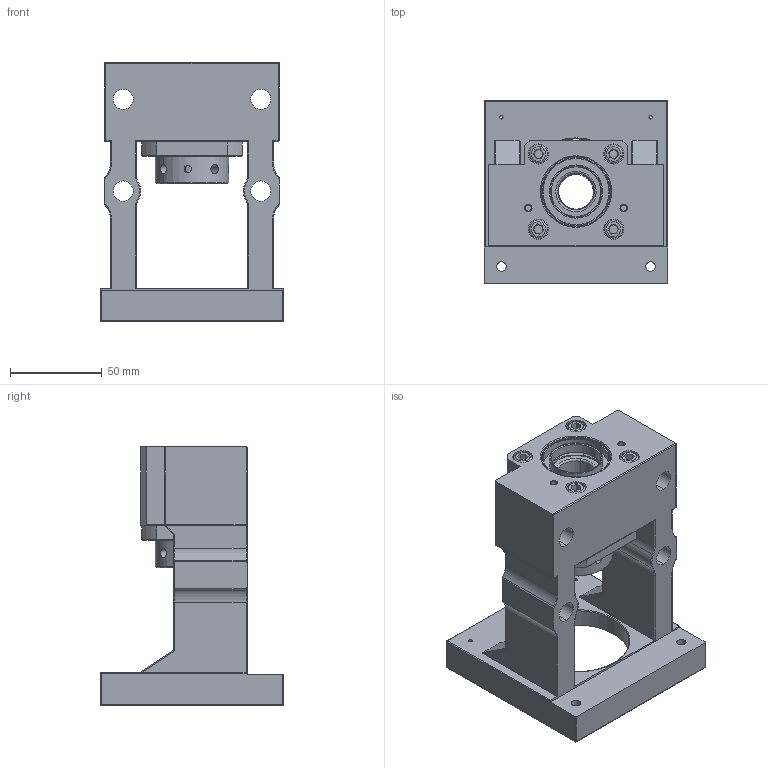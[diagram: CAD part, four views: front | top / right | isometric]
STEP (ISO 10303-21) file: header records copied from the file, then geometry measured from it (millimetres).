
FILE_DESCRIPTION (( 'STEP AP203' ), '1' );
FILE_NAME ('MBCS20-YP.STEP', '2017-12-28T07:53:55', ( '' ), ( '' ), 'SwSTEP 2.0', 'SolidWorks 2017', '' );
FILE_SCHEMA (( 'CONFIG_CONTROL_DESIGN' ));
Length unit declared in the file: millimetre
Products named in the file (1): MBCS20-YP
Bounding box: 100 x 100 x 141 mm (x, y, z)
Surface area: 85892.2 mm2 (no closed solid volume)
Topology: 0 solids, 18 shells, 350 faces, 904 edges, 566 vertices
Faces by surface type: cylinder 151, plane 93, torus 50, cone 44, sphere 12
Entity records: 11406 total; most frequent: CARTESIAN_POINT 2717, DIRECTION 1946, ORIENTED_EDGE 1642, EDGE_CURVE 886, AXIS2_PLACEMENT_3D 779, VERTEX_POINT 560, CIRCLE 428, EDGE_LOOP 416
